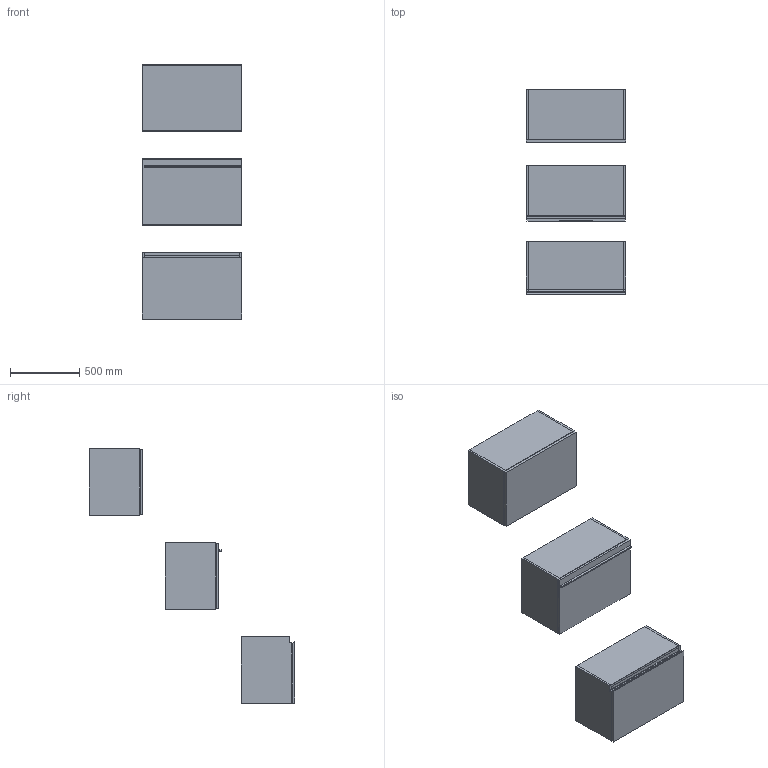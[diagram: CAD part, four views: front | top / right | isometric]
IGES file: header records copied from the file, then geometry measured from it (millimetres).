
Start section: Data from Parasolid IGES Translator 19.0.9, Copyright(c) 2006 Siemens PL M Software. All Rights Reserved.
Global section: file name: noorth-SI-H 48 D 38,8 W 72_8404.igs; native system: By Siemens PLM Incorporated; preprocessor: XPlus GENERIC/IGES 19.0.9; author: Noname; organization: Noname; date: 20200601.102447; units: metre
Bounding box: 720 x 1485.1 x 1840.01 mm (x, y, z)
Volume: 62610494.6 mm3; surface area: 9584037.6 mm2
Topology: 20 solids, 20 shells, 178 faces, 382 edges, 234 vertices
Faces by surface type: plane 134, extrusion 16, bspline 16, cylinder 12
